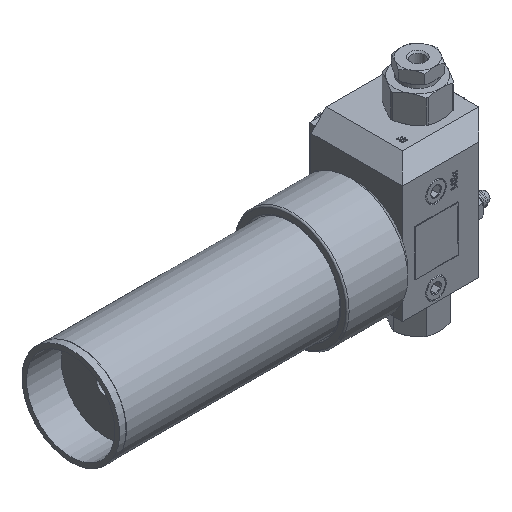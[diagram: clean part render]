
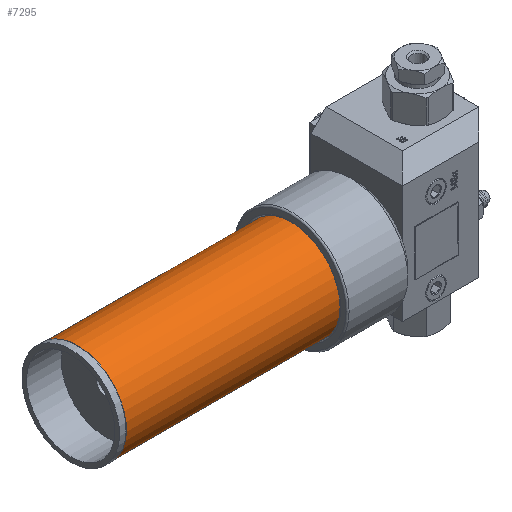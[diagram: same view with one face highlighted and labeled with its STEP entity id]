
A CAD part, isometric view. The second image highlights one B-rep face of the part: STEP entity #7295.
In plain terms, the highlighted cylindrical face has radius 31.75 mm (diameter 63.5 mm), a full revolution.
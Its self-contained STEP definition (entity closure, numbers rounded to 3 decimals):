
#328=CYLINDRICAL_SURFACE('',#9949,31.75);
#600=CIRCLE('',#9948,31.75);
#601=CIRCLE('',#9950,31.75);
#2598=ORIENTED_EDGE('',*,*,#3796,.F.);
#2599=ORIENTED_EDGE('',*,*,#3795,.T.);
#3795=EDGE_CURVE('',#4551,#4551,#600,.T.);
#3796=EDGE_CURVE('',#4552,#4552,#601,.T.);
#4551=VERTEX_POINT('',#20138);
#4552=VERTEX_POINT('',#20141);
#5593=EDGE_LOOP('',(#2598));
#5594=EDGE_LOOP('',(#2599));
#6446=FACE_BOUND('',#5593,.T.);
#6447=FACE_BOUND('',#5594,.T.);
#7295=ADVANCED_FACE('',(#6446,#6447),#328,.T.);
#9948=AXIS2_PLACEMENT_3D('',#20137,#11486,#11487);
#9949=AXIS2_PLACEMENT_3D('',#20139,#11488,#11489);
#9950=AXIS2_PLACEMENT_3D('',#20140,#11490,#11491);
#11486=DIRECTION('',(1.,0.,0.));
#11487=DIRECTION('',(0.,0.924,0.382));
#11488=DIRECTION('',(1.,0.,0.));
#11489=DIRECTION('',(0.,0.924,0.382));
#11490=DIRECTION('',(1.,0.,0.));
#11491=DIRECTION('',(0.,0.924,0.382));
#20137=CARTESIAN_POINT('',(-183.,30.,64.));
#20138=CARTESIAN_POINT('',(-183.,59.344,76.124));
#20139=CARTESIAN_POINT('',(-3.557,30.,64.));
#20140=CARTESIAN_POINT('',(-4.5,30.,64.));
#20141=CARTESIAN_POINT('',(-4.5,59.344,76.124));
